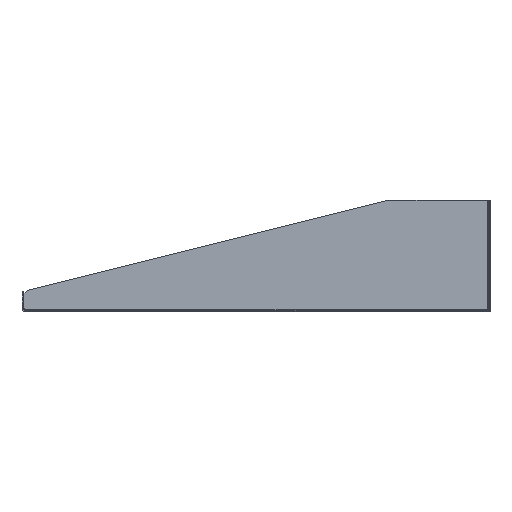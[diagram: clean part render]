
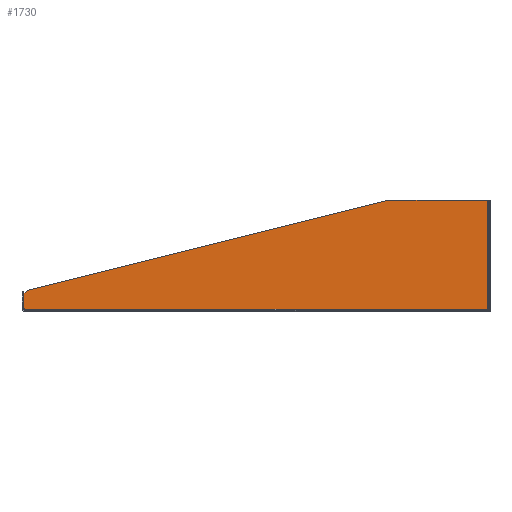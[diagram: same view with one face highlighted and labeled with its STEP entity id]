
A CAD part, left-side view. The second image highlights one B-rep face of the part: STEP entity #1730.
In plain terms, the highlighted planar face has unit normal (-1, 0, 0).
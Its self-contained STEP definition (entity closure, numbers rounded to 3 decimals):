
#1730 = ADVANCED_FACE( '', ( #3741 ), #3742, .T. );
#3741 = FACE_OUTER_BOUND( '', #5902, .T. );
#3742 = PLANE( '', #5903 );
#5902 = EDGE_LOOP( '', ( #11532, #11533, #11534, #11535, #11536, #11537, #11538, #11539 ) );
#5903 = AXIS2_PLACEMENT_3D( '', #11540, #11541, #11542 );
#11532 = ORIENTED_EDGE( '', *, *, #13967, .T. );
#11533 = ORIENTED_EDGE( '', *, *, #13055, .T. );
#11534 = ORIENTED_EDGE( '', *, *, #13683, .F. );
#11535 = ORIENTED_EDGE( '', *, *, #11791, .F. );
#11536 = ORIENTED_EDGE( '', *, *, #13051, .T. );
#11537 = ORIENTED_EDGE( '', *, *, #12955, .F. );
#11538 = ORIENTED_EDGE( '', *, *, #12373, .T. );
#11539 = ORIENTED_EDGE( '', *, *, #12193, .T. );
#11540 = CARTESIAN_POINT( '', ( -222.25, 183.426, 1.181 ) );
#11541 = DIRECTION( '', ( -1., 0., 0. ) );
#11542 = DIRECTION( '', ( 0., 0., 1. ) );
#11791 = EDGE_CURVE( '', #14155, #14150, #14157, .T. );
#12193 = EDGE_CURVE( '', #14855, #14853, #14856, .T. );
#12373 = EDGE_CURVE( '', #15161, #14855, #15162, .F. );
#12955 = EDGE_CURVE( '', #15161, #16114, #16115, .T. );
#13051 = EDGE_CURVE( '', #14155, #16114, #16252, .T. );
#13055 = EDGE_CURVE( '', #16254, #14141, #16257, .T. );
#13683 = EDGE_CURVE( '', #14150, #14141, #17109, .T. );
#13967 = EDGE_CURVE( '', #14853, #16254, #17397, .T. );
#14141 = VERTEX_POINT( '', #17615 );
#14150 = VERTEX_POINT( '', #17628 );
#14155 = VERTEX_POINT( '', #17634 );
#14157 = LINE( '', #17636, #17637 );
#14853 = VERTEX_POINT( '', #18590 );
#14855 = VERTEX_POINT( '', #18593 );
#14856 = LINE( '', #18594, #18595 );
#15161 = VERTEX_POINT( '', #19008 );
#15162 = LINE( '', #19009, #19010 );
#16114 = VERTEX_POINT( '', #20259 );
#16115 = LINE( '', #20260, #20261 );
#16252 = LINE( '', #20450, #20451 );
#16254 = VERTEX_POINT( '', #20453 );
#16257 = LINE( '', #20471, #20472 );
#17109 = LINE( '', #21712, #21713 );
#17397 = CIRCLE( '', #22130, 1.397 );
#17615 = CARTESIAN_POINT( '', ( -222.25, -182.69, 2.184 ) );
#17628 = CARTESIAN_POINT( '', ( -222.25, -182.69, 2.186 ) );
#17634 = CARTESIAN_POINT( '', ( -222.25, -182.69, 88.087 ) );
#17636 = CARTESIAN_POINT( '', ( -222.25, -182.69, 2.186 ) );
#17637 = VECTOR( '', #22275, 1000. );
#18590 = CARTESIAN_POINT( '', ( -222.25, 181.976, 2.552 ) );
#18593 = CARTESIAN_POINT( '', ( -222.25, 181.976, 14.15 ) );
#18594 = CARTESIAN_POINT( '', ( -222.25, 181.976, 88.087 ) );
#18595 = VECTOR( '', #22762, 1000. );
#19008 = CARTESIAN_POINT( '', ( -222.25, 179.192, 16.934 ) );
#19009 = CARTESIAN_POINT( '', ( -222.25, 189.186, 6.94 ) );
#19010 = VECTOR( '', #22970, 1000. );
#20259 = CARTESIAN_POINT( '', ( -222.25, -105.321, 88.087 ) );
#20260 = CARTESIAN_POINT( '', ( -222.25, 186.885, 15.01 ) );
#20261 = VECTOR( '', #23943, 1000. );
#20450 = CARTESIAN_POINT( '', ( -222.25, -183.426, 88.087 ) );
#20451 = VECTOR( '', #24048, 1000. );
#20453 = CARTESIAN_POINT( '', ( -222.25, 181.274, 2.184 ) );
#20471 = CARTESIAN_POINT( '', ( -222.25, 183.426, 2.184 ) );
#20472 = VECTOR( '', #24052, 1000. );
#21712 = CARTESIAN_POINT( '', ( -222.25, -182.69, 2.186 ) );
#21713 = VECTOR( '', #24868, 1000. );
#22130 = AXIS2_PLACEMENT_3D( '', #24968, #24969, #24970 );
#22275 = DIRECTION( '', ( 0., 0., -1. ) );
#22762 = DIRECTION( '', ( 0., 0., -1. ) );
#22970 = DIRECTION( '', ( 0., -0.707, 0.707 ) );
#23943 = DIRECTION( '', ( 0., -0.97, 0.243 ) );
#24048 = DIRECTION( '', ( 0., 1., 0. ) );
#24052 = DIRECTION( '', ( 0., -1., 0. ) );
#24868 = DIRECTION( '', ( 0., 0., -1. ) );
#24968 = CARTESIAN_POINT( '', ( -222.25, 182.245, 1.181 ) );
#24969 = DIRECTION( '', ( 1., 0., 0. ) );
#24970 = DIRECTION( '', ( 0., 1., 0. ) );
